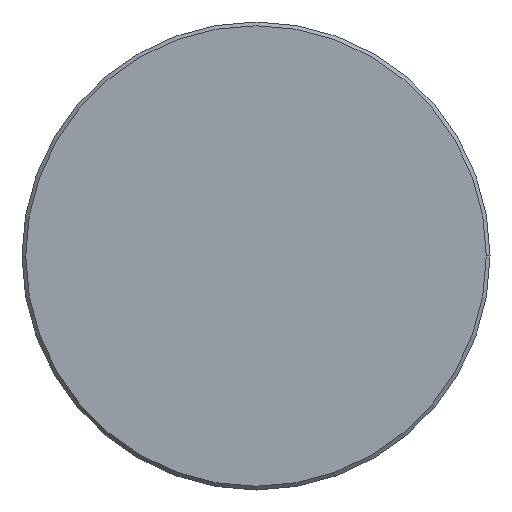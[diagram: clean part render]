
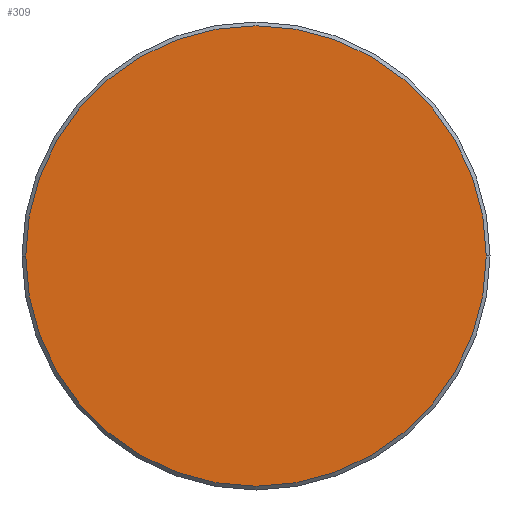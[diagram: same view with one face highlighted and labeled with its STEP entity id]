
A CAD part, left-side view. The second image highlights one B-rep face of the part: STEP entity #309.
In plain terms, the highlighted planar face has unit normal (-1, 0, 0).
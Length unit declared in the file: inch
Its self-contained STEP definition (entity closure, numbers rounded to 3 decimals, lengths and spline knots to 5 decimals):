
#14 = VERTEX_POINT ( 'NONE', #315 ) ;
#32 = EDGE_CURVE ( 'NONE', #250, #14, #48, .T. ) ;
#34 = CARTESIAN_POINT ( 'NONE',  ( 0., 0., 0. ) ) ;
#43 = DIRECTION ( 'NONE',  ( 0., -1., 0. ) ) ;
#48 = CIRCLE ( 'NONE', #218, 0.246 ) ;
#52 = FACE_OUTER_BOUND ( 'NONE', #172, .T. ) ;
#69 = DIRECTION ( 'NONE',  ( -1., 0., 0. ) ) ;
#82 = ORIENTED_EDGE ( 'NONE', *, *, #32, .T. ) ;
#117 = CARTESIAN_POINT ( 'NONE',  ( 0., 0., 0. ) ) ;
#155 = AXIS2_PLACEMENT_3D ( 'NONE', #117, #337, #43 ) ;
#172 = EDGE_LOOP ( 'NONE', ( #233, #82 ) ) ;
#175 = DIRECTION ( 'NONE',  ( 0., -1., 0. ) ) ;
#187 = CARTESIAN_POINT ( 'NONE',  ( 0., -0.246, 0. ) ) ;
#191 = EDGE_CURVE ( 'NONE', #14, #250, #284, .T. ) ;
#204 = AXIS2_PLACEMENT_3D ( 'NONE', #34, #69, #239 ) ;
#218 = AXIS2_PLACEMENT_3D ( 'NONE', #375, #262, #175 ) ;
#233 = ORIENTED_EDGE ( 'NONE', *, *, #191, .T. ) ;
#239 = DIRECTION ( 'NONE',  ( 0., -1., 0. ) ) ;
#250 = VERTEX_POINT ( 'NONE', #187 ) ;
#262 = DIRECTION ( 'NONE',  ( -1., 0., 0. ) ) ;
#284 = CIRCLE ( 'NONE', #155, 0.246 ) ;
#309 = ADVANCED_FACE ( 'NONE', ( #52 ), #324, .T. ) ;
#315 = CARTESIAN_POINT ( 'NONE',  ( 0., 0.246, 0. ) ) ;
#324 = PLANE ( 'NONE',  #204 ) ;
#337 = DIRECTION ( 'NONE',  ( -1., 0., 0. ) ) ;
#375 = CARTESIAN_POINT ( 'NONE',  ( 0., 0., 0. ) ) ;
